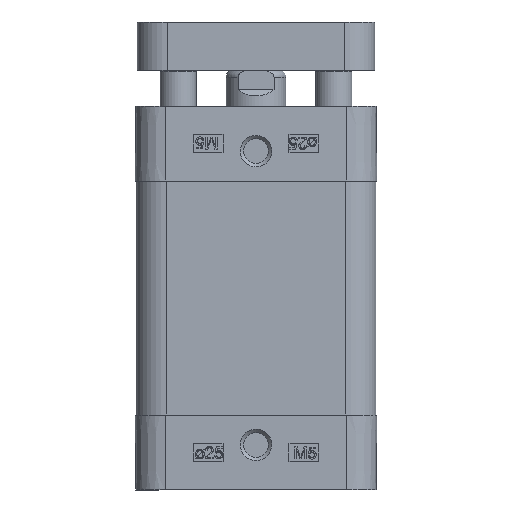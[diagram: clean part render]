
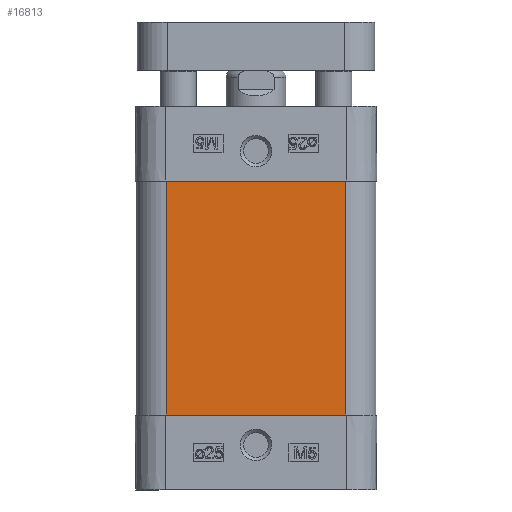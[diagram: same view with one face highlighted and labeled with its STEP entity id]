
A CAD part, left-side view. The second image highlights one B-rep face of the part: STEP entity #16813.
In plain terms, the highlighted planar face has unit normal (-1, 0, 0).
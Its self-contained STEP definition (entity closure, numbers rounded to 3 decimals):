
#604=PLANE('',#17834);
#1277=LINE('',#24034,#2321);
#1305=LINE('',#24147,#2349);
#1387=LINE('',#24367,#2431);
#1388=LINE('',#24369,#2432);
#2321=VECTOR('',#19965,1000.);
#2349=VECTOR('',#20051,1000.);
#2431=VECTOR('',#20297,1000.);
#2432=VECTOR('',#20300,1000.);
#4970=ORIENTED_EDGE('',*,*,#7263,.T.);
#4971=ORIENTED_EDGE('',*,*,#7429,.T.);
#4972=ORIENTED_EDGE('',*,*,#7430,.T.);
#4973=ORIENTED_EDGE('',*,*,#7319,.F.);
#7263=EDGE_CURVE('',#8731,#8732,#1277,.T.);
#7319=EDGE_CURVE('',#8731,#8787,#1305,.T.);
#7429=EDGE_CURVE('',#8732,#8842,#1387,.T.);
#7430=EDGE_CURVE('',#8842,#8787,#1388,.T.);
#8731=VERTEX_POINT('',#24035);
#8732=VERTEX_POINT('',#24036);
#8787=VERTEX_POINT('',#24148);
#8842=VERTEX_POINT('',#24366);
#10353=EDGE_LOOP('',(#4970,#4971,#4972,#4973));
#11301=FACE_BOUND('',#10353,.T.);
#16813=ADVANCED_FACE('',(#11301),#604,.T.);
#17834=AXIS2_PLACEMENT_3D('',#24368,#20298,#20299);
#19965=DIRECTION('',(0.,0.,-1.));
#20051=DIRECTION('',(0.,-1.,0.));
#20297=DIRECTION('',(0.,-1.,0.));
#20298=DIRECTION('',(-1.,0.,0.));
#20299=DIRECTION('',(0.,0.,1.));
#20300=DIRECTION('',(0.,0.,1.));
#24034=CARTESIAN_POINT('',(-20.,29.5,15.));
#24035=CARTESIAN_POINT('',(-20.,29.5,15.));
#24036=CARTESIAN_POINT('',(-20.,29.5,-15.));
#24147=CARTESIAN_POINT('',(-20.,9.5,15.));
#24148=CARTESIAN_POINT('',(-20.,-9.5,15.));
#24366=CARTESIAN_POINT('',(-20.,-9.5,-15.));
#24367=CARTESIAN_POINT('',(-20.,9.5,-15.));
#24368=CARTESIAN_POINT('',(-20.,0.,15.));
#24369=CARTESIAN_POINT('',(-20.,-9.5,-15.));
